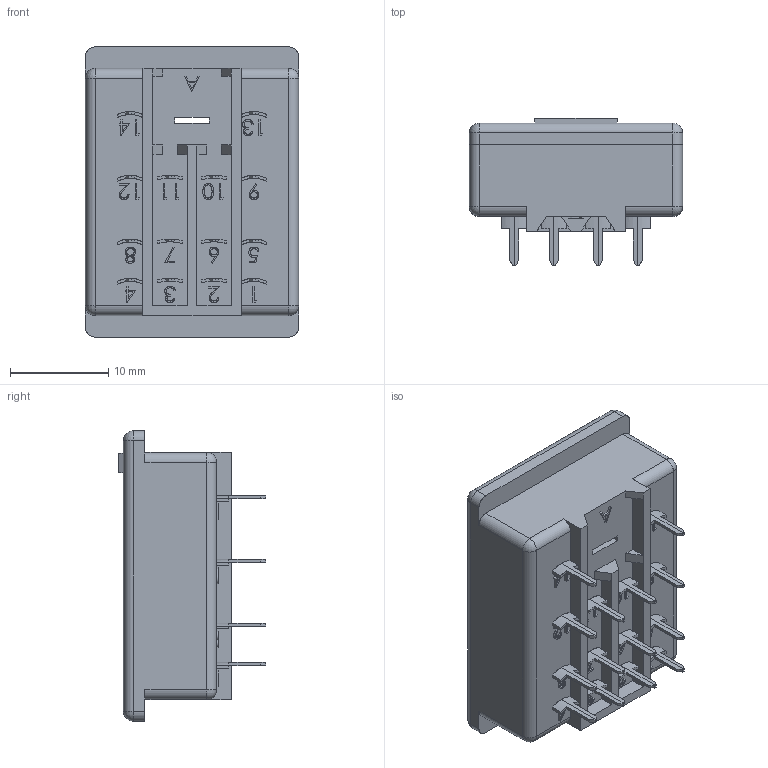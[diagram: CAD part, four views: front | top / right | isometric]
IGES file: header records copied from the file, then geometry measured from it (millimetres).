
Start section: SolidWorks IGES file using analytic representation for surfaces
Global section: file name: D:\X - Arquivos\PROEX\Empresas\P11 - METALTEX\01 - Produtos\IGES\7ª remessa\2ª etapa\MSO4CI.IGS; native system: SolidWorks 2012; preprocessor: SolidWorks 2012; author: Usuario; date: 190912.135941; units: millimetre
Bounding box: 21.75 x 15 x 29.6 mm (x, y, z)
Surface area: 3209.3 mm2 (no closed solid volume)
Topology: 0 solids, 0 shells, 660 faces, 5090 edges, 5082 vertices
Faces by surface type: bspline 576, revolution 84
